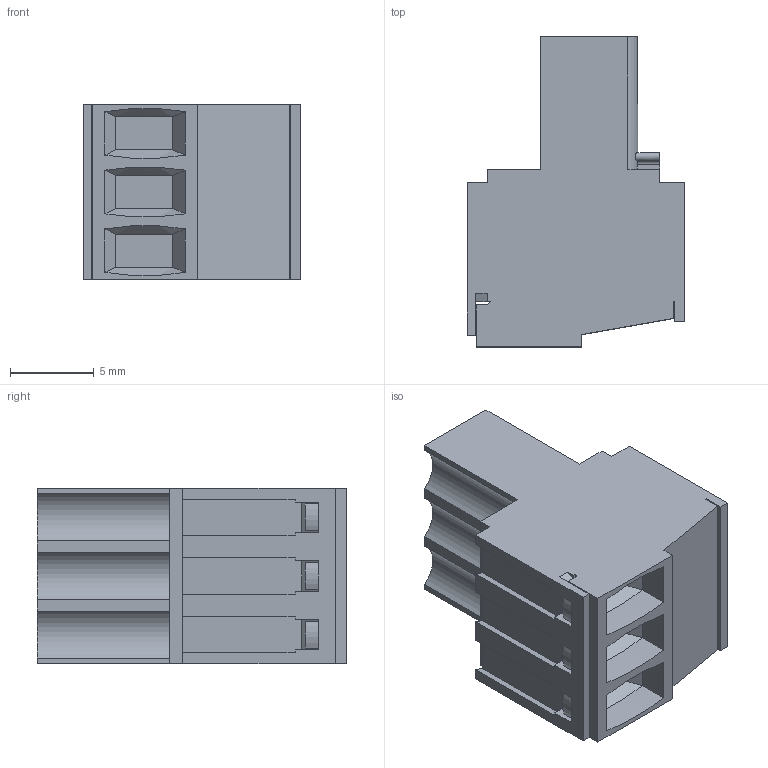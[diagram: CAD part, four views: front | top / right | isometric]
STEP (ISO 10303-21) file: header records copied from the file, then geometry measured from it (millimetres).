
FILE_DESCRIPTION((''),'2;1');
FILE_NAME('3','2019-05-07T',('zhenbing.lai'),(''),'CREO PARAMETRIC BY PTC INC, 2016260','CREO PARAMETRIC BY PTC INC, 2016260','');
FILE_SCHEMA(('CONFIG_CONTROL_DESIGN'));
Length unit declared in the file: millimetre
Products named in the file (1): 3
Bounding box: 13 x 18.5 x 10.5 mm (x, y, z)
Volume: 1556.8 mm3; surface area: 1417.7 mm2
Topology: 1 solids, 1 shells, 387 faces, 1217 edges, 799 vertices
Faces by surface type: plane 297, cylinder 72, torus 12, bspline 6
Entity records: 14644 total; most frequent: CARTESIAN_POINT 4052, ORIENTED_EDGE 2434, DIRECTION 1924, EDGE_CURVE 1217, VECTOR 830, LINE 830, VERTEX_POINT 799, AXIS2_PLACEMENT_3D 547
